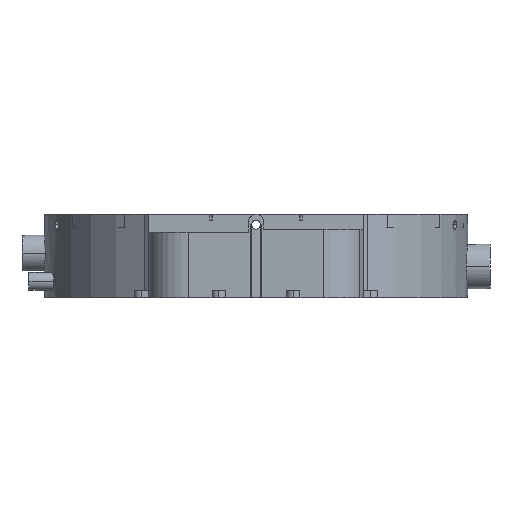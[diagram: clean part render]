
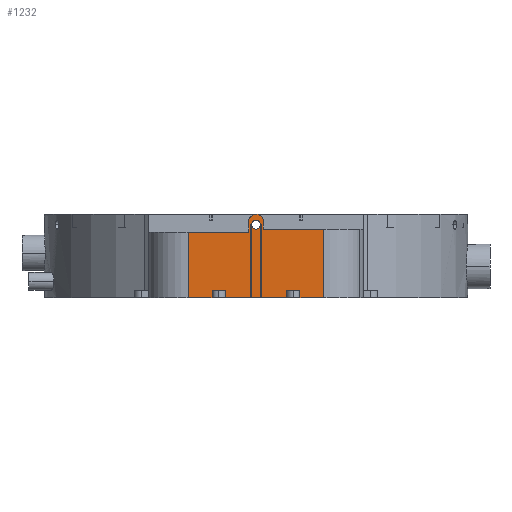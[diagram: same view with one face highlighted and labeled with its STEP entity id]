
A CAD part, left-side view. The second image highlights one B-rep face of the part: STEP entity #1232.
In plain terms, the highlighted planar face has unit normal (-1, 0, 0).
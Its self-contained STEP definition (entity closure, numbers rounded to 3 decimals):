
#1232=ADVANCED_FACE('',(#2935,#2936),#2937,.T.);
#2935=FACE_OUTER_BOUND('',#5157,.T.);
#2936=FACE_BOUND('',#5158,.T.);
#2937=PLANE('',#5159);
#5157=EDGE_LOOP('',(#8964,#8965,#8966,#8967,#8968,#8969,#8970,#8971,#8972,#8973,#8974,#8975,#8976,#8977,#8978,#8979,#8980));
#5158=EDGE_LOOP('',(#8981,#8982));
#5159=AXIS2_PLACEMENT_3D('',#8983,#8984,#8985);
#8964=ORIENTED_EDGE('',*,*,#13179,.F.);
#8965=ORIENTED_EDGE('',*,*,#14536,.T.);
#8966=ORIENTED_EDGE('',*,*,#14180,.T.);
#8967=ORIENTED_EDGE('',*,*,#14537,.F.);
#8968=ORIENTED_EDGE('',*,*,#14538,.T.);
#8969=ORIENTED_EDGE('',*,*,#14539,.T.);
#8970=ORIENTED_EDGE('',*,*,#14540,.F.);
#8971=ORIENTED_EDGE('',*,*,#14541,.F.);
#8972=ORIENTED_EDGE('',*,*,#14542,.T.);
#8973=ORIENTED_EDGE('',*,*,#14543,.T.);
#8974=ORIENTED_EDGE('',*,*,#14544,.T.);
#8975=ORIENTED_EDGE('',*,*,#14545,.F.);
#8976=ORIENTED_EDGE('',*,*,#14546,.T.);
#8977=ORIENTED_EDGE('',*,*,#14214,.T.);
#8978=ORIENTED_EDGE('',*,*,#14547,.T.);
#8979=ORIENTED_EDGE('',*,*,#13432,.T.);
#8980=ORIENTED_EDGE('',*,*,#14548,.F.);
#8981=ORIENTED_EDGE('',*,*,#14549,.T.);
#8982=ORIENTED_EDGE('',*,*,#14149,.T.);
#8983=CARTESIAN_POINT('',(-288.,0.,0.0));
#8984=DIRECTION('',(-1.0,0.,0.));
#8985=DIRECTION('',(0.,-1.0,0.));
#13179=EDGE_CURVE('',#15855,#15848,#15857,.T.);
#13432=EDGE_CURVE('',#16310,#16307,#16311,.T.);
#14149=EDGE_CURVE('',#17500,#17520,#17522,.T.);
#14180=EDGE_CURVE('',#17570,#17568,#17571,.T.);
#14214=EDGE_CURVE('',#17624,#17622,#17625,.T.);
#14536=EDGE_CURVE('',#15855,#17570,#18110,.T.);
#14537=EDGE_CURVE('',#18111,#17568,#18112,.T.);
#14538=EDGE_CURVE('',#18111,#18113,#18114,.T.);
#14539=EDGE_CURVE('',#18113,#18115,#18116,.T.);
#14540=EDGE_CURVE('',#18117,#18115,#18118,.T.);
#14541=EDGE_CURVE('',#18119,#18117,#18120,.T.);
#14542=EDGE_CURVE('',#18119,#18121,#18122,.T.);
#14543=EDGE_CURVE('',#18121,#18123,#18124,.T.);
#14544=EDGE_CURVE('',#18123,#18125,#18126,.T.);
#14545=EDGE_CURVE('',#18127,#18125,#18128,.T.);
#14546=EDGE_CURVE('',#18127,#17624,#18129,.T.);
#14547=EDGE_CURVE('',#17622,#16310,#18130,.T.);
#14548=EDGE_CURVE('',#15848,#16307,#18131,.T.);
#14549=EDGE_CURVE('',#17520,#17500,#18132,.T.);
#15848=VERTEX_POINT('',#19796);
#15855=VERTEX_POINT('',#19804);
#15857=CIRCLE('',#19807,5.0);
#16307=VERTEX_POINT('',#20602);
#16310=VERTEX_POINT('',#20606);
#16311=LINE('',#20607,#20608);
#17500=VERTEX_POINT('',#22648);
#17520=VERTEX_POINT('',#22759);
#17522=CIRCLE('',#22762,3.0);
#17568=VERTEX_POINT('',#22820);
#17570=VERTEX_POINT('',#22822);
#17571=LINE('',#22823,#22824);
#17622=VERTEX_POINT('',#22962);
#17624=VERTEX_POINT('',#22964);
#17625=LINE('',#22965,#22966);
#18110=LINE('',#23869,#23870);
#18111=VERTEX_POINT('',#23871);
#18112=LINE('',#23872,#23873);
#18113=VERTEX_POINT('',#23874);
#18114=LINE('',#23875,#23876);
#18115=VERTEX_POINT('',#23877);
#18116=LINE('',#23878,#23879);
#18117=VERTEX_POINT('',#23880);
#18118=LINE('',#23881,#23882);
#18119=VERTEX_POINT('',#23883);
#18120=LINE('',#23884,#23885);
#18121=VERTEX_POINT('',#23886);
#18122=LINE('',#23887,#23888);
#18123=VERTEX_POINT('',#23889);
#18124=LINE('',#23890,#23891);
#18125=VERTEX_POINT('',#23892);
#18126=LINE('',#23893,#23894);
#18127=VERTEX_POINT('',#23895);
#18128=LINE('',#23896,#23897);
#18129=LINE('',#23898,#23899);
#18130=LINE('',#23900,#23901);
#18131=CIRCLE('',#23902,5.0);
#18132=CIRCLE('',#23903,3.0);
#19796=CARTESIAN_POINT('',(-288.,-3.536,54.536));
#19804=CARTESIAN_POINT('',(-288.,5.,51.0));
#19807=AXIS2_PLACEMENT_3D('',#26696,#26697,#26698);
#20602=CARTESIAN_POINT('',(-288.,-5.,51.0));
#20606=CARTESIAN_POINT('',(-288.,-5.,46.0));
#20607=CARTESIAN_POINT('',(-288.,-5.,23.0));
#20608=VECTOR('',#27028,1.0);
#22648=CARTESIAN_POINT('',(-288.,0.,46.));
#22759=CARTESIAN_POINT('',(-288.,0.0,52.));
#22762=AXIS2_PLACEMENT_3D('',#28102,#28103,#28104);
#22820=CARTESIAN_POINT('',(-288.,45.5,44.0));
#22822=CARTESIAN_POINT('',(-288.,5.,44.0));
#22823=CARTESIAN_POINT('',(-288.,26.25,44.0));
#22824=VECTOR('',#28147,1.0);
#22962=CARTESIAN_POINT('',(-288.,-45.5,46.0));
#22964=CARTESIAN_POINT('',(-288.,-45.5,0.0));
#22965=CARTESIAN_POINT('',(-288.,-45.5,0.0));
#22966=VECTOR('',#28179,1.0);
#23869=CARTESIAN_POINT('',(-288.,5.,22.0));
#23870=VECTOR('',#28588,1.0);
#23871=CARTESIAN_POINT('',(-288.,45.5,0.0));
#23872=CARTESIAN_POINT('',(-288.,45.5,0.0));
#23873=VECTOR('',#28589,1.0);
#23874=CARTESIAN_POINT('',(-288.0,29.5,0.0));
#23875=CARTESIAN_POINT('',(-288.,45.5,0.0));
#23876=VECTOR('',#28590,1.0);
#23877=CARTESIAN_POINT('',(-288.0,29.5,5.0));
#23878=CARTESIAN_POINT('',(-288.0,29.5,0.0));
#23879=VECTOR('',#28591,1.0);
#23880=CARTESIAN_POINT('',(-288.0,20.5,5.0));
#23881=CARTESIAN_POINT('',(-288.0,29.5,5.0));
#23882=VECTOR('',#28592,1.0);
#23883=CARTESIAN_POINT('',(-288.0,20.5,0.0));
#23884=CARTESIAN_POINT('',(-288.0,20.5,0.0));
#23885=VECTOR('',#28593,1.0);
#23886=CARTESIAN_POINT('',(-288.0,-20.5,0.0));
#23887=CARTESIAN_POINT('',(-288.,45.5,0.0));
#23888=VECTOR('',#28594,1.0);
#23889=CARTESIAN_POINT('',(-288.0,-20.5,5.0));
#23890=CARTESIAN_POINT('',(-288.0,-20.5,0.0));
#23891=VECTOR('',#28595,1.0);
#23892=CARTESIAN_POINT('',(-288.0,-29.5,5.0));
#23893=CARTESIAN_POINT('',(-288.0,-29.5,5.0));
#23894=VECTOR('',#28596,1.0);
#23895=CARTESIAN_POINT('',(-288.0,-29.5,0.0));
#23896=CARTESIAN_POINT('',(-288.0,-29.5,0.0));
#23897=VECTOR('',#28597,1.0);
#23898=CARTESIAN_POINT('',(-288.,45.5,0.0));
#23899=VECTOR('',#28598,1.0);
#23900=CARTESIAN_POINT('',(-288.,-26.25,46.0));
#23901=VECTOR('',#28599,1.0);
#23902=AXIS2_PLACEMENT_3D('',#28600,#28601,#28602);
#23903=AXIS2_PLACEMENT_3D('',#28603,#28604,#28605);
#26696=CARTESIAN_POINT('',(-288.,0.,51.0));
#26697=DIRECTION('',(1.0,0.,0.0));
#26698=DIRECTION('',(0.,0.707,0.707));
#27028=DIRECTION('',(0.,0.,1.0));
#28102=CARTESIAN_POINT('',(-288.,0.0,49.));
#28103=DIRECTION('',(1.0,0.,0.));
#28104=DIRECTION('',(0.0,0.,-1.0));
#28147=DIRECTION('',(0.,1.0,0.));
#28179=DIRECTION('',(0.0,0.0,1.0));
#28588=DIRECTION('',(0.,0.,-1.0));
#28589=DIRECTION('',(0.0,0.0,1.0));
#28590=DIRECTION('',(0.,-1.0,0.0));
#28591=DIRECTION('',(0.,0.,1.0));
#28592=DIRECTION('',(0.,1.0,0.));
#28593=DIRECTION('',(0.,0.,1.0));
#28594=DIRECTION('',(0.,-1.0,0.0));
#28595=DIRECTION('',(0.0,0.0,1.0));
#28596=DIRECTION('',(0.,-1.0,0.0));
#28597=DIRECTION('',(0.0,0.0,1.0));
#28598=DIRECTION('',(0.,-1.0,0.0));
#28599=DIRECTION('',(0.,1.0,0.));
#28600=CARTESIAN_POINT('',(-288.,0.,51.0));
#28601=DIRECTION('',(1.0,0.,0.0));
#28602=DIRECTION('',(0.,0.707,0.707));
#28603=CARTESIAN_POINT('',(-288.,0.0,49.));
#28604=DIRECTION('',(1.0,0.,0.));
#28605=DIRECTION('',(0.0,0.,-1.0));
